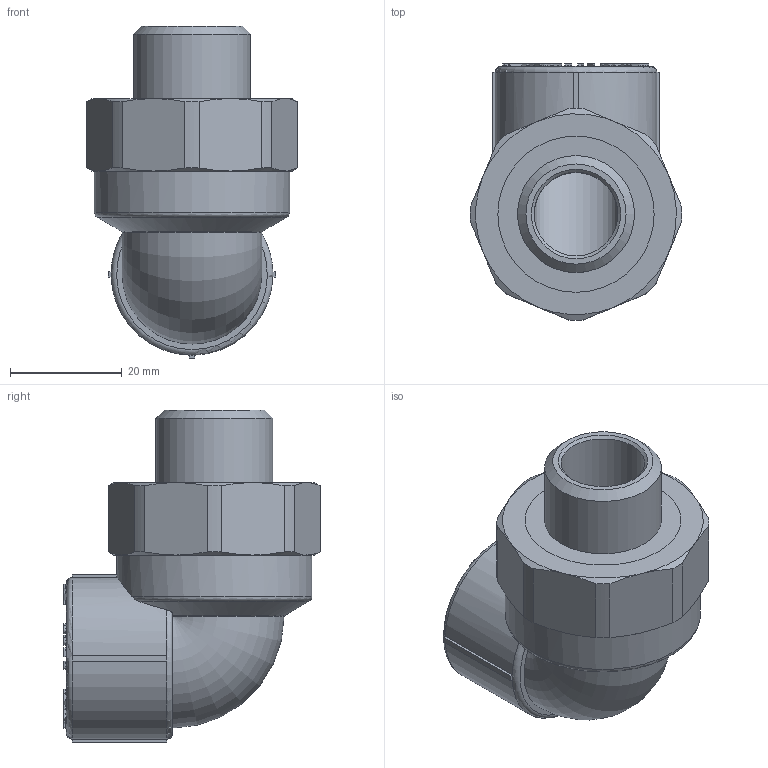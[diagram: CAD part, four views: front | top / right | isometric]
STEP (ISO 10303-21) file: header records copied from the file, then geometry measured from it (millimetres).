
FILE_DESCRIPTION(('STEP AP203'), '1');
FILE_NAME('ÂÐ.752212.036 - VTp.753.0.02004', '', ('UNSPECIFIED'), ('UNSPECIFIED'), 'C3D Converter', 'C3D Toolkit', '');
FILE_SCHEMA(('CONFIG_CONTROL_DESIGN'));
Length unit declared in the file: millimetre
Products named in the file (4): ВР.752212.036; ВР.302639.011.000; ВР.713751.001
Assembly tree (3 placements, depth 3):
  ВР.752212.036
    ВР.302639.011.000
      ВР.713751.001
      (unnamed)
Bounding box: 37.99 x 46 x 59.5 mm (x, y, z)
Volume: 40589 mm3; surface area: 19584.5 mm2
Topology: 3 solids, 3 shells, 701 faces, 1886 edges, 1236 vertices
Faces by surface type: extrusion 318, plane 294, cylinder 60, cone 18, torus 11
Full cylindrical faces by diameter (mm): 15 x3, 17.6 x2, 20.955 x1, 21 x2, 24 x6, 28 x8, 35 x1
Entity records: 23124 total; most frequent: CARTESIAN_POINT 6672, ORIENTED_EDGE 3678, DIRECTION 2436, EDGE_CURVE 1839, VECTOR 1316, VERTEX_POINT 1230, LINE 998, B_SPLINE_CURVE_WITH_KNOTS 991
